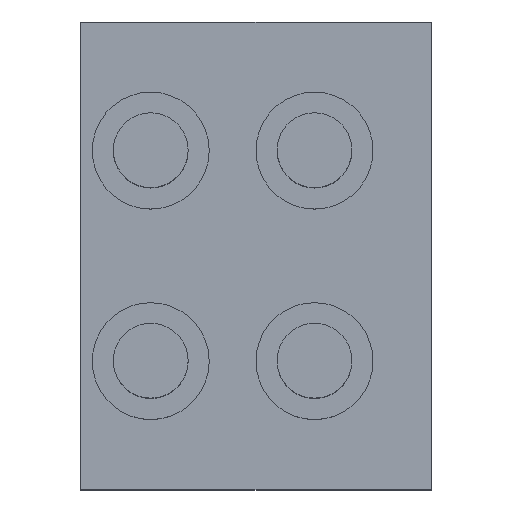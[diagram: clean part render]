
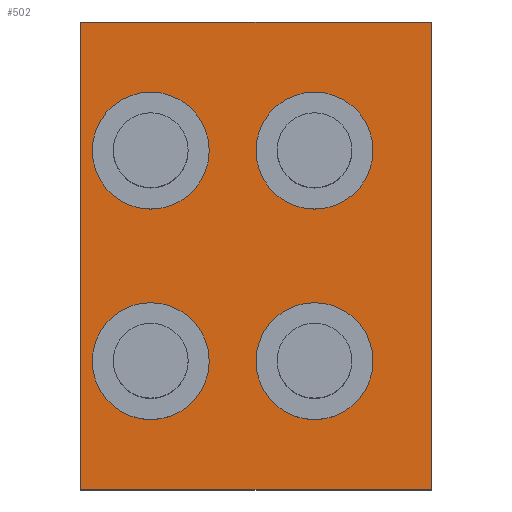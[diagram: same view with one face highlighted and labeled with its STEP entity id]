
A CAD part, top view. The second image highlights one B-rep face of the part: STEP entity #502.
In plain terms, the highlighted planar face has unit normal (0, 0, 1).
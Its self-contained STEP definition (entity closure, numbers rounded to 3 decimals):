
#13 = DIRECTION ( 'NONE',  ( 0., 0., -1. ) ) ;
#19 = DIRECTION ( 'NONE',  ( -1., 0., 0. ) ) ;
#26 = CARTESIAN_POINT ( 'NONE',  ( 2.5, -4.5, 3. ) ) ;
#28 = EDGE_LOOP ( 'NONE', ( #917, #905, #587, #909 ) ) ;
#48 = CARTESIAN_POINT ( 'NONE',  ( 7.5, -10., 3. ) ) ;
#53 = CARTESIAN_POINT ( 'NONE',  ( -7.5, -10., 3. ) ) ;
#55 = LINE ( 'NONE', #555, #956 ) ;
#57 = DIRECTION ( 'NONE',  ( 1., 0., 0. ) ) ;
#86 = LINE ( 'NONE', #647, #278 ) ;
#90 = LINE ( 'NONE', #95, #1030 ) ;
#95 = CARTESIAN_POINT ( 'NONE',  ( 7.5, -10., 3. ) ) ;
#97 = DIRECTION ( 'NONE',  ( 0., 1., 0. ) ) ;
#191 = EDGE_CURVE ( 'NONE', #200, #801, #865, .T. ) ;
#196 = DIRECTION ( 'NONE',  ( -1., 0., 0. ) ) ;
#200 = VERTEX_POINT ( 'NONE', #976 ) ;
#202 = AXIS2_PLACEMENT_3D ( 'NONE', #559, #482, #873 ) ;
#208 = FACE_BOUND ( 'NONE', #423, .T. ) ;
#221 = CARTESIAN_POINT ( 'NONE',  ( -2.9, -4.5, 3. ) ) ;
#226 = DIRECTION ( 'NONE',  ( -1., 0., 0. ) ) ;
#240 = DIRECTION ( 'NONE',  ( 0., -1., 0. ) ) ;
#254 = EDGE_CURVE ( 'NONE', #704, #777, #910, .T. ) ;
#255 = CARTESIAN_POINT ( 'NONE',  ( 0.9, 4.5, 3. ) ) ;
#262 = EDGE_CURVE ( 'NONE', #1133, #736, #770, .T. ) ;
#268 = EDGE_CURVE ( 'NONE', #572, #1027, #55, .T. ) ;
#278 = VECTOR ( 'NONE', #1087, 1000. ) ;
#289 = EDGE_CURVE ( 'NONE', #1027, #1160, #90, .T. ) ;
#299 = CARTESIAN_POINT ( 'NONE',  ( -6.1, -4.5, 3. ) ) ;
#311 = VECTOR ( 'NONE', #240, 1000. ) ;
#323 = CIRCLE ( 'NONE', #350, 1.6 ) ;
#327 = CARTESIAN_POINT ( 'NONE',  ( -7.5, -10., 3. ) ) ;
#336 = FACE_OUTER_BOUND ( 'NONE', #28, .T. ) ;
#350 = AXIS2_PLACEMENT_3D ( 'NONE', #430, #827, #605 ) ;
#365 = DIRECTION ( 'NONE',  ( 0., 0., 1. ) ) ;
#403 = AXIS2_PLACEMENT_3D ( 'NONE', #453, #616, #1055 ) ;
#405 = CARTESIAN_POINT ( 'NONE',  ( -7.5, 10., 3. ) ) ;
#407 = EDGE_CURVE ( 'NONE', #1007, #676, #323, .T. ) ;
#408 = DIRECTION ( 'NONE',  ( 0., 0., 1. ) ) ;
#421 = CARTESIAN_POINT ( 'NONE',  ( 2.5, -4.5, 3. ) ) ;
#423 = EDGE_LOOP ( 'NONE', ( #1123, #973 ) ) ;
#430 = CARTESIAN_POINT ( 'NONE',  ( 2.5, 4.5, 3. ) ) ;
#446 = CARTESIAN_POINT ( 'NONE',  ( 0.9, -4.5, 3. ) ) ;
#453 = CARTESIAN_POINT ( 'NONE',  ( -4.5, -4.5, 3. ) ) ;
#457 = ORIENTED_EDGE ( 'NONE', *, *, #254, .F. ) ;
#463 = EDGE_CURVE ( 'NONE', #676, #1007, #941, .T. ) ;
#482 = DIRECTION ( 'NONE',  ( 0., 0., 1. ) ) ;
#502 = ADVANCED_FACE ( 'NONE', ( #1013, #208, #655, #1095, #336 ), #667, .F. ) ;
#545 = CARTESIAN_POINT ( 'NONE',  ( 4.1, 4.5, 3. ) ) ;
#555 = CARTESIAN_POINT ( 'NONE',  ( -7.5, -10., 3. ) ) ;
#559 = CARTESIAN_POINT ( 'NONE',  ( -4.5, 4.5, 3. ) ) ;
#561 = CARTESIAN_POINT ( 'NONE',  ( -4.5, 4.5, 3. ) ) ;
#572 = VERTEX_POINT ( 'NONE', #327 ) ;
#574 = EDGE_CURVE ( 'NONE', #801, #200, #817, .T. ) ;
#587 = ORIENTED_EDGE ( 'NONE', *, *, #1150, .T. ) ;
#597 = EDGE_CURVE ( 'NONE', #1160, #651, #86, .T. ) ;
#605 = DIRECTION ( 'NONE',  ( -1., 0., 0. ) ) ;
#616 = DIRECTION ( 'NONE',  ( 0., 0., 1. ) ) ;
#626 = CARTESIAN_POINT ( 'NONE',  ( 2.5, 4.5, 3. ) ) ;
#647 = CARTESIAN_POINT ( 'NONE',  ( -7.5, 10., 3. ) ) ;
#651 = VERTEX_POINT ( 'NONE', #405 ) ;
#655 = FACE_BOUND ( 'NONE', #720, .T. ) ;
#666 = AXIS2_PLACEMENT_3D ( 'NONE', #774, #13, #19 ) ;
#667 = PLANE ( 'NONE',  #666 ) ;
#676 = VERTEX_POINT ( 'NONE', #255 ) ;
#678 = DIRECTION ( 'NONE',  ( -1., 0., 0. ) ) ;
#686 = CARTESIAN_POINT ( 'NONE',  ( 4.1, -4.5, 3. ) ) ;
#704 = VERTEX_POINT ( 'NONE', #686 ) ;
#718 = CARTESIAN_POINT ( 'NONE',  ( -4.5, -4.5, 3. ) ) ;
#720 = EDGE_LOOP ( 'NONE', ( #974, #982 ) ) ;
#736 = VERTEX_POINT ( 'NONE', #221 ) ;
#762 = EDGE_LOOP ( 'NONE', ( #958, #960 ) ) ;
#764 = DIRECTION ( 'NONE',  ( -1., 0., 0. ) ) ;
#770 = CIRCLE ( 'NONE', #934, 1.6 ) ;
#774 = CARTESIAN_POINT ( 'NONE',  ( 0., 0., 3. ) ) ;
#777 = VERTEX_POINT ( 'NONE', #446 ) ;
#781 = DIRECTION ( 'NONE',  ( 0., 0., 1. ) ) ;
#801 = VERTEX_POINT ( 'NONE', #907 ) ;
#817 = CIRCLE ( 'NONE', #202, 1.6 ) ;
#818 = LINE ( 'NONE', #53, #311 ) ;
#827 = DIRECTION ( 'NONE',  ( 0., 0., 1. ) ) ;
#865 = CIRCLE ( 'NONE', #866, 1.6 ) ;
#866 = AXIS2_PLACEMENT_3D ( 'NONE', #561, #986, #196 ) ;
#873 = DIRECTION ( 'NONE',  ( -1., 0., 0. ) ) ;
#905 = ORIENTED_EDGE ( 'NONE', *, *, #597, .T. ) ;
#906 = EDGE_CURVE ( 'NONE', #777, #704, #1084, .T. ) ;
#907 = CARTESIAN_POINT ( 'NONE',  ( -2.9, 4.5, 3. ) ) ;
#909 = ORIENTED_EDGE ( 'NONE', *, *, #268, .T. ) ;
#910 = CIRCLE ( 'NONE', #912, 1.6 ) ;
#912 = AXIS2_PLACEMENT_3D ( 'NONE', #26, #1153, #971 ) ;
#917 = ORIENTED_EDGE ( 'NONE', *, *, #289, .T. ) ;
#934 = AXIS2_PLACEMENT_3D ( 'NONE', #718, #365, #226 ) ;
#941 = CIRCLE ( 'NONE', #1011, 1.6 ) ;
#956 = VECTOR ( 'NONE', #57, 1000. ) ;
#958 = ORIENTED_EDGE ( 'NONE', *, *, #191, .F. ) ;
#960 = ORIENTED_EDGE ( 'NONE', *, *, #574, .F. ) ;
#969 = EDGE_CURVE ( 'NONE', #736, #1133, #985, .T. ) ;
#971 = DIRECTION ( 'NONE',  ( -1., 0., 0. ) ) ;
#973 = ORIENTED_EDGE ( 'NONE', *, *, #969, .F. ) ;
#974 = ORIENTED_EDGE ( 'NONE', *, *, #463, .F. ) ;
#976 = CARTESIAN_POINT ( 'NONE',  ( -6.1, 4.5, 3. ) ) ;
#982 = ORIENTED_EDGE ( 'NONE', *, *, #407, .F. ) ;
#985 = CIRCLE ( 'NONE', #403, 1.6 ) ;
#986 = DIRECTION ( 'NONE',  ( 0., 0., 1. ) ) ;
#1007 = VERTEX_POINT ( 'NONE', #545 ) ;
#1011 = AXIS2_PLACEMENT_3D ( 'NONE', #626, #408, #764 ) ;
#1013 = FACE_BOUND ( 'NONE', #1173, .T. ) ;
#1027 = VERTEX_POINT ( 'NONE', #48 ) ;
#1030 = VECTOR ( 'NONE', #97, 1000. ) ;
#1055 = DIRECTION ( 'NONE',  ( -1., 0., 0. ) ) ;
#1084 = CIRCLE ( 'NONE', #1147, 1.6 ) ;
#1087 = DIRECTION ( 'NONE',  ( -1., 0., 0. ) ) ;
#1095 = FACE_BOUND ( 'NONE', #762, .T. ) ;
#1123 = ORIENTED_EDGE ( 'NONE', *, *, #262, .F. ) ;
#1133 = VERTEX_POINT ( 'NONE', #299 ) ;
#1146 = CARTESIAN_POINT ( 'NONE',  ( 7.5, 10., 3. ) ) ;
#1147 = AXIS2_PLACEMENT_3D ( 'NONE', #421, #781, #678 ) ;
#1150 = EDGE_CURVE ( 'NONE', #651, #572, #818, .T. ) ;
#1153 = DIRECTION ( 'NONE',  ( 0., 0., 1. ) ) ;
#1160 = VERTEX_POINT ( 'NONE', #1146 ) ;
#1173 = EDGE_LOOP ( 'NONE', ( #1196, #457 ) ) ;
#1196 = ORIENTED_EDGE ( 'NONE', *, *, #906, .F. ) ;
